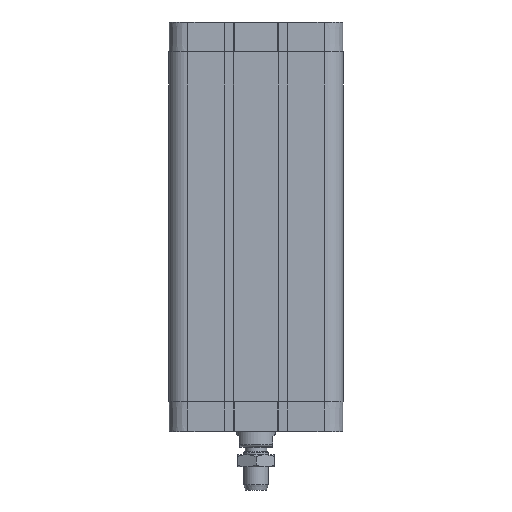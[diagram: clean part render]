
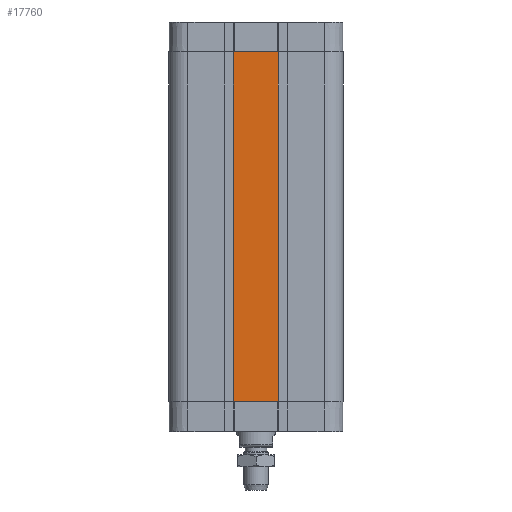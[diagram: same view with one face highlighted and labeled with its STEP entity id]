
A CAD part, left-side view. The second image highlights one B-rep face of the part: STEP entity #17760.
In plain terms, the highlighted planar face has unit normal (-1, 0, 0).
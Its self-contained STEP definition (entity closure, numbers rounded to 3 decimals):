
#926=PLANE('',#18739);
#1696=LINE('',#25731,#2804);
#1697=LINE('',#25734,#2805);
#1698=LINE('',#25736,#2806);
#1699=LINE('',#25738,#2807);
#2804=VECTOR('',#21077,1000.);
#2805=VECTOR('',#21078,1000.);
#2806=VECTOR('',#21079,1000.);
#2807=VECTOR('',#21080,1000.);
#5068=ORIENTED_EDGE('',*,*,#8116,.F.);
#5069=ORIENTED_EDGE('',*,*,#8117,.T.);
#5070=ORIENTED_EDGE('',*,*,#8118,.F.);
#5071=ORIENTED_EDGE('',*,*,#8119,.T.);
#8116=EDGE_CURVE('',#9743,#9744,#1696,.T.);
#8117=EDGE_CURVE('',#9743,#9745,#1697,.T.);
#8118=EDGE_CURVE('',#9746,#9745,#1698,.T.);
#8119=EDGE_CURVE('',#9746,#9744,#1699,.T.);
#9743=VERTEX_POINT('',#25732);
#9744=VERTEX_POINT('',#25733);
#9745=VERTEX_POINT('',#25735);
#9746=VERTEX_POINT('',#25737);
#11308=EDGE_LOOP('',(#5068,#5069,#5070,#5071));
#12254=FACE_BOUND('',#11308,.T.);
#17760=ADVANCED_FACE('',(#12254),#926,.T.);
#18739=AXIS2_PLACEMENT_3D('',#25730,#21075,#21076);
#21075=DIRECTION('',(-1.,0.,0.));
#21076=DIRECTION('',(0.,0.,1.));
#21077=DIRECTION('',(0.,0.,1.));
#21078=DIRECTION('',(0.,-1.,0.));
#21079=DIRECTION('',(0.,0.,-1.));
#21080=DIRECTION('',(0.,1.,0.));
#25730=CARTESIAN_POINT('',(-56.75,-56.75,0.));
#25731=CARTESIAN_POINT('',(-56.75,14.5,-16.5));
#25732=CARTESIAN_POINT('',(-56.75,14.5,-211.5));
#25733=CARTESIAN_POINT('',(-56.75,14.5,16.5));
#25734=CARTESIAN_POINT('',(-56.75,14.5,-211.5));
#25735=CARTESIAN_POINT('',(-56.75,-14.5,-211.5));
#25736=CARTESIAN_POINT('',(-56.75,-14.5,16.5));
#25737=CARTESIAN_POINT('',(-56.75,-14.5,16.5));
#25738=CARTESIAN_POINT('',(-56.75,-14.5,16.5));
